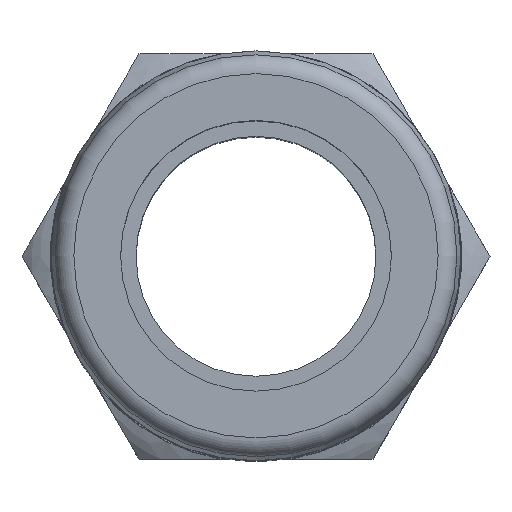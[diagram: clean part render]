
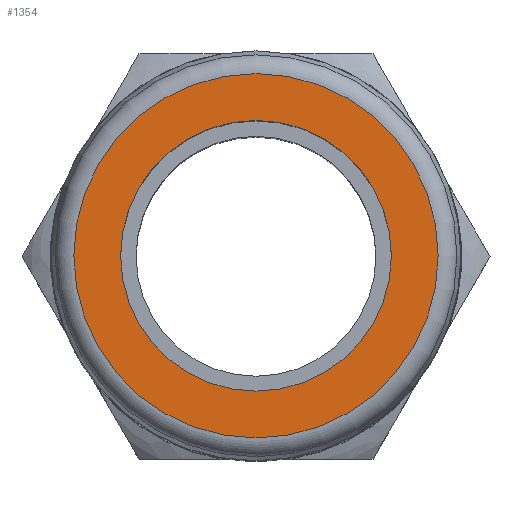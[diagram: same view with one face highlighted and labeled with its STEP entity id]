
A CAD part, top view. The second image highlights one B-rep face of the part: STEP entity #1354.
In plain terms, the highlighted planar face has unit normal (0, 0, 1).
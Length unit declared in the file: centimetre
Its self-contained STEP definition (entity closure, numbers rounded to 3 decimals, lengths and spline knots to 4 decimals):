
#147=PLANE('',#1444);
#297=CIRCLE('',#1441,1.4271);
#299=CIRCLE('',#1445,1.0605);
#405=VERTEX_POINT('',#13229);
#407=VERTEX_POINT('',#13235);
#642=EDGE_CURVE('',#405,#405,#297,.T.);
#644=EDGE_CURVE('',#407,#407,#299,.T.);
#885=ORIENTED_EDGE('',*,*,#644,.F.);
#886=ORIENTED_EDGE('',*,*,#642,.F.);
#1160=EDGE_LOOP('',(#885));
#1161=EDGE_LOOP('',(#886));
#1260=FACE_BOUND('',#1160,.T.);
#1261=FACE_BOUND('',#1161,.T.);
#1354=ADVANCED_FACE('',(#1260,#1261),#147,.T.);
#1441=AXIS2_PLACEMENT_3D('',#13228,#1585,#1586);
#1444=AXIS2_PLACEMENT_3D('',#13233,#1591,$);
#1445=AXIS2_PLACEMENT_3D('',#13234,#1592,#1593);
#1585=DIRECTION('',(0.,0.,-1.));
#1586=DIRECTION('',(0.,-1.427,0.));
#1591=DIRECTION('',(0.,0.,1.));
#1592=DIRECTION('',(0.,0.,1.));
#1593=DIRECTION('',(0.,1.06,0.));
#13228=CARTESIAN_POINT('',(0.,0.,0.));
#13229=CARTESIAN_POINT('',(0.,1.4271,0.));
#13233=CARTESIAN_POINT('',(0.,1.3022,0.));
#13234=CARTESIAN_POINT('',(0.,0.,0.));
#13235=CARTESIAN_POINT('',(0.,1.0605,0.));
